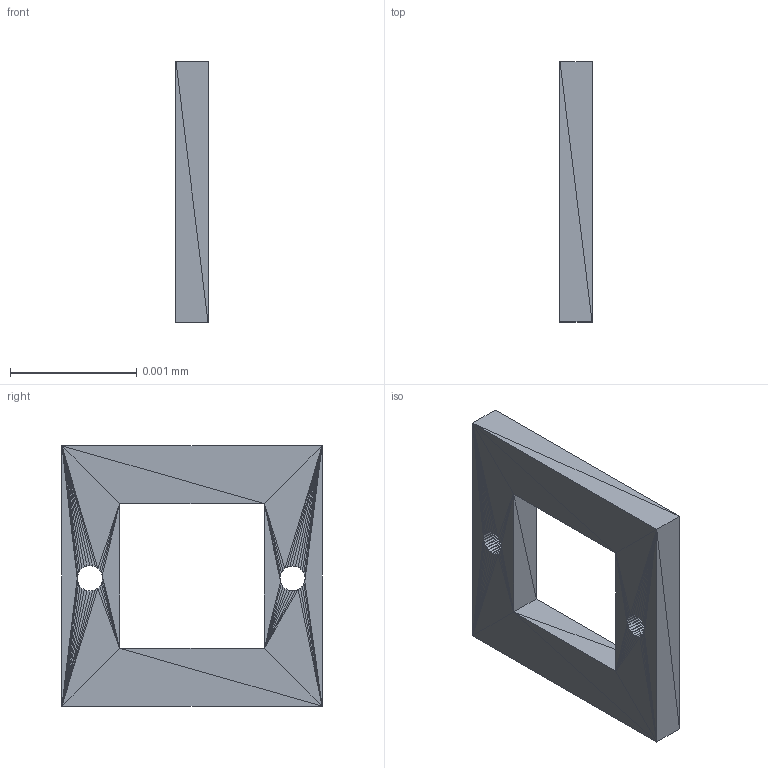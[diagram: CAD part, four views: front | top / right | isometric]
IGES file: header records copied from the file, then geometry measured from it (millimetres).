
Global section: file name: D:\jo UNILAMP\FUJI\FUJI-FLAT WALL LIGHT\fuji flat-wall light.IGS; native system:  3D Studio VIZ R3.0 ; preprocessor:  3D Studio VIZ Iges Exporter R3.0 ; author: No Author specified; organization: No Organization specified; units: inch
Bounding box: 0 x 0 x 0 mm (x, y, z)
Surface area: 0 mm2 (no closed solid volume)
Topology: 0 solids, 0 shells, 264 faces, 1056 edges, 792 vertices
Faces by surface type: bspline 264
